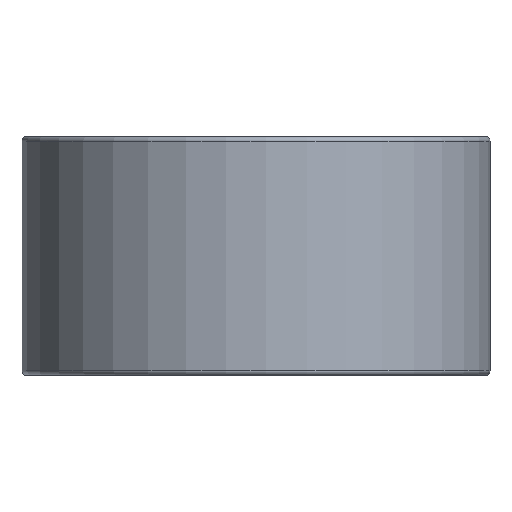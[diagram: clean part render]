
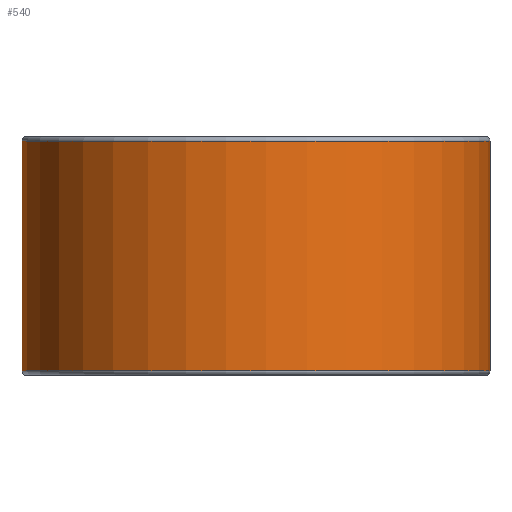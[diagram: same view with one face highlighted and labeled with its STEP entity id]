
A CAD part, front view. The second image highlights one B-rep face of the part: STEP entity #540.
In plain terms, the highlighted cylindrical face has radius 26.5 mm (diameter 53 mm), a full revolution.
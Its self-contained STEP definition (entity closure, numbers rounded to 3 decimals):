
#540=ADVANCED_FACE('',(#641,#642),#610,.T.);
#610=CYLINDRICAL_SURFACE('',#1375,26.5);
#641=FACE_BOUND('',#713,.T.);
#642=FACE_BOUND('',#714,.T.);
#713=EDGE_LOOP('',(#825));
#714=EDGE_LOOP('',(#826));
#825=ORIENTED_EDGE('',*,*,#1173,.T.);
#826=ORIENTED_EDGE('',*,*,#1174,.T.);
#1077=VERTEX_POINT('',#1865);
#1078=VERTEX_POINT('',#1867);
#1173=EDGE_CURVE('',#1077,#1077,#1301,.T.);
#1174=EDGE_CURVE('',#1078,#1078,#1302,.T.);
#1301=CIRCLE('',#1373,26.5);
#1302=CIRCLE('',#1374,26.5);
#1373=AXIS2_PLACEMENT_3D('',#1864,#1530,#1531);
#1374=AXIS2_PLACEMENT_3D('',#1866,#1532,#1533);
#1375=AXIS2_PLACEMENT_3D('',#1868,#1534,#1535);
#1530=DIRECTION('',(0.,0.,-1.));
#1531=DIRECTION('',(1.,0.,0.));
#1532=DIRECTION('',(0.,0.,1.));
#1533=DIRECTION('',(1.,0.,0.));
#1534=DIRECTION('',(0.,0.,-1.));
#1535=DIRECTION('',(-1.,0.,0.));
#1864=CARTESIAN_POINT('',(0.,0.,26.5));
#1865=CARTESIAN_POINT('',(26.5,0.,26.5));
#1866=CARTESIAN_POINT('',(0.,0.,0.5));
#1867=CARTESIAN_POINT('',(26.5,0.,0.5));
#1868=CARTESIAN_POINT('',(0.,0.,27.));
